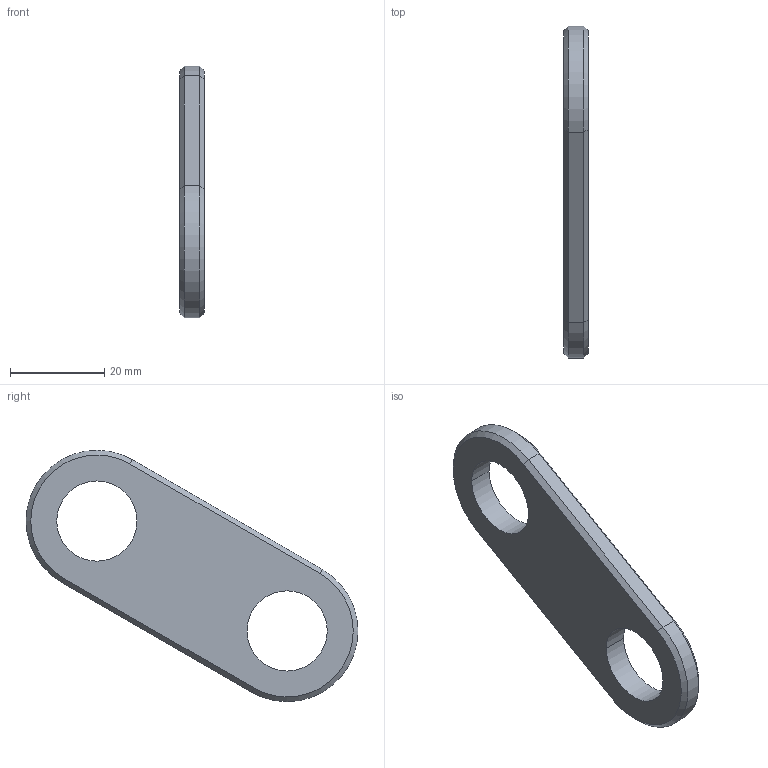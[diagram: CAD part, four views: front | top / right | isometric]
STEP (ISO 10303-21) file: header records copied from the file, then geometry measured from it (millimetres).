
FILE_DESCRIPTION(('CATIA V5 STEP Exchange','CAx-IF Rec.Pracs.--- Model Styling and Organization---1.2---2011-12-15'),'2;1');
FILE_NAME('X:\Projects\INTERIORS\VEMINA\IL-96-026_027\2.WORK_DATA\01.USERS\dmitriy.khorkov\02 OUT DATA\Пак 5_Листовые детали\STP\V.9626.7522.810.051.stp','2025-07-03T04:51:45+00:00',('none'),('none'),'CATIA Version 5-6 Release 2013 SP6 HF12','CATIA V5 STEP AP214','none');
FILE_SCHEMA(('AUTOMOTIVE_DESIGN { 1 0 10303 214 1 1 1 1 }'));
Length unit declared in the file: millimetre
Products named in the file (1): V.9626.7522.810.051
Bounding box: 5.2 x 70.31 x 53.27 mm (x, y, z)
Volume: 8391.2 mm3; surface area: 4606.2 mm2
Topology: 1 solids, 1 shells, 18 faces, 40 edges, 24 vertices
Faces by surface type: plane 8, cylinder 6, cone 4
Entity records: 499 total; most frequent: CARTESIAN_POINT 81, ORIENTED_EDGE 80, DIRECTION 72, EDGE_CURVE 40, AXIS2_PLACEMENT_3D 33, VECTOR 24, LINE 24, VERTEX_POINT 24
